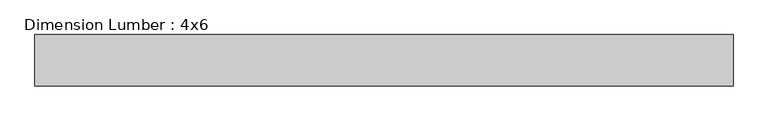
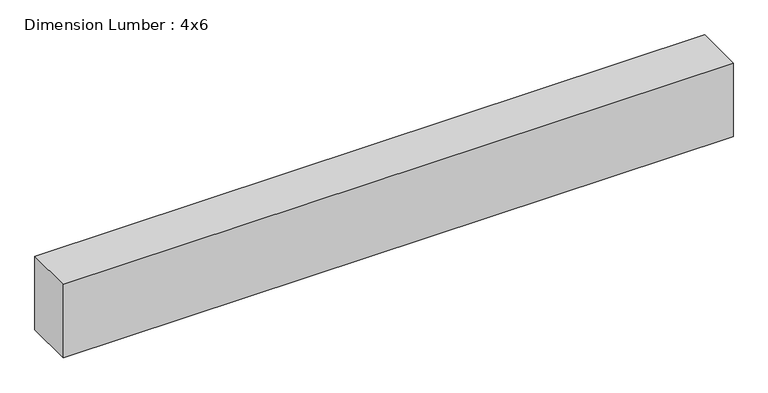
"""IFC4 building model written with IfcOpenShell, lengths in millimetres: beam geometry, Dimension Lumber : 4x6."""

import ifcopenshell
import ifcopenshell.guid

model = None  # the IFC model being written
_history = None  # IfcOwnerHistory: only IFC2X3 demands one
_inside = {}  # id of a spatial element -> (the spatial element, [elements in it])
_under = {}  # id of a project, library or spatial element -> (it, [spatial elements below it])
_declared = {}  # id of a project -> (the project, [libraries it declares])
_typed = {}  # id of a type object -> (the type object, [elements of that type])
_made_of = {}  # id of a material, layer set ... -> (it, [elements and type objects made of it])


def new_model(schema):
    """Start an empty IFC model of exactly this schema.

    Asked for "IFC4X3", IfcOpenShell would pick the latest addendum, in which some entities
    have other attributes; the version numbers below select the first issue.
    IFC2X3 requires an IfcOwnerHistory on every rooted entity: one is made here for all.
    """
    global model, _history
    if schema == "IFC4X3":
        model = ifcopenshell.file(schema_version=(4, 3, 0, 0))
    else:
        model = ifcopenshell.file(schema=schema)
    _inside.clear()
    _under.clear()
    _declared.clear()
    _typed.clear()
    _made_of.clear()
    _history = None
    if model.schema == "IFC2X3":
        org = make("IfcOrganization", Name="unknown")
        user = make(
            "IfcPersonAndOrganization",
            ThePerson=make("IfcPerson", FamilyName="unknown"),
            TheOrganization=org,
        )
        app = make(
            "IfcApplication",
            ApplicationDeveloper=org,
            Version="unknown",
            ApplicationFullName="unknown",
            ApplicationIdentifier="unknown",
        )
        _history = make(
            "IfcOwnerHistory",
            OwningUser=user,
            OwningApplication=app,
            ChangeAction="ADDED",
            CreationDate=0,
        )
    return model


def make(cls, **values):
    """One entity of the class cls with the attributes given. An attribute that is None is left unset."""
    return model.create_entity(
        cls, **{name: value for name, value in values.items() if value is not None}
    )


def rooted(cls, **values):
    """An entity with a GlobalId (a new one), such as an element, a storey or a relation."""
    return make(cls, GlobalId=ifcopenshell.guid.new(), OwnerHistory=_history, **values)


def si_unit(unit_type, name, prefix=None):
    """IfcSIUnit, for example si_unit("LENGTHUNIT", "METRE", prefix="MILLI")."""
    return make("IfcSIUnit", UnitType=unit_type, Prefix=prefix, Name=name)


def assignment(units):
    """IfcUnitAssignment: the units of a project."""
    return None if units is None else make("IfcUnitAssignment", Units=units)


def point(xyz):
    """IfcCartesianPoint."""
    return None if xyz is None else make("IfcCartesianPoint", Coordinates=xyz)


def direction(xyz):
    """IfcDirection."""
    return None if xyz is None else make("IfcDirection", DirectionRatios=xyz)


def frame(location, z_axis=None, x_axis=None):
    """IfcAxis2Placement3D, a coordinate frame: its origin and axes. An axis left out is left unset."""
    return make(
        "IfcAxis2Placement3D",
        Location=point(location),
        Axis=direction(z_axis),
        RefDirection=direction(x_axis),
    )


def origin():
    """The frame at (0, 0, 0) with its axes left unset."""
    return frame((0.0, 0.0, 0.0))


def place(relative_to, where):
    """IfcLocalPlacement: puts the frame where relative to a parent placement (None: the world)."""
    return make(
        "IfcLocalPlacement", PlacementRelTo=relative_to, RelativePlacement=where
    )


def context(
    kind, dimensions, precision=None, world=None, true_north=None, identifier=None
):
    """IfcGeometricRepresentationContext, for example the 3D "Model" context."""
    return make(
        "IfcGeometricRepresentationContext",
        ContextIdentifier=identifier,
        ContextType=kind,
        CoordinateSpaceDimension=dimensions,
        Precision=precision,
        WorldCoordinateSystem=world,
        TrueNorth=true_north,
    )


def project(units=None, contexts=None):
    """IfcProject with its units and contexts."""
    return rooted(
        "IfcProject",
        Name="project",
        RepresentationContexts=contexts,
        UnitsInContext=assignment(units),
    )


def spatial(cls, under=None, at=None, **own):
    """A site, building, storey or space (cls), placed at a placement, below another one or the project."""
    s = rooted(cls, ObjectPlacement=at, **own)
    if under is not None:
        _under.setdefault(under.id(), (under, []))[1].append(s)
    return s


def polyline(points):
    """IfcPolyline through the points."""
    return make("IfcPolyline", Points=[point(p) for p in points])


def outline(outer, holes=None, kind="AREA"):
    """IfcArbitraryClosedProfileDef: a profile drawn as a closed curve; with holes, ...WithVoids."""
    if holes is None:
        return make("IfcArbitraryClosedProfileDef", ProfileType=kind, OuterCurve=outer)
    return make(
        "IfcArbitraryProfileDefWithVoids",
        ProfileType=kind,
        OuterCurve=outer,
        InnerCurves=holes,
    )


def extrude(swept, where, along, depth):
    """IfcExtrudedAreaSolid: the profile swept, set in the frame where, extruded along a direction by depth."""
    return make(
        "IfcExtrudedAreaSolid",
        SweptArea=swept,
        Position=where,
        ExtrudedDirection=direction(along),
        Depth=depth,
    )


def shape(context_of_items, identifier, shape_type, items):
    """IfcShapeRepresentation: the items that make up one representation, for example the "Body"."""
    return make(
        "IfcShapeRepresentation",
        ContextOfItems=context_of_items,
        RepresentationIdentifier=identifier,
        RepresentationType=shape_type,
        Items=items,
    )


def source(mapping_origin, context_of_items, identifier, shape_type, items):
    """IfcRepresentationMap: a shape defined once, which mapped items show again and again."""
    return make(
        "IfcRepresentationMap",
        MappingOrigin=mapping_origin,
        MappedRepresentation=shape(context_of_items, identifier, shape_type, items),
    )


def transform(
    local_origin,
    x_axis=None,
    y_axis=None,
    z_axis=None,
    scale=None,
    scale2=None,
    scale3=None,
    uniform=True,
):
    """IfcCartesianTransformationOperator3D, or its non-uniform kind. x_axis, y_axis, z_axis: its Axis1, 2, 3."""
    if uniform:
        return make(
            "IfcCartesianTransformationOperator3D",
            Axis1=direction(x_axis),
            Axis2=direction(y_axis),
            LocalOrigin=point(local_origin),
            Scale=scale,
            Axis3=direction(z_axis),
        )
    return make(
        "IfcCartesianTransformationOperator3DnonUniform",
        Axis1=direction(x_axis),
        Axis2=direction(y_axis),
        LocalOrigin=point(local_origin),
        Scale=scale,
        Axis3=direction(z_axis),
        Scale2=scale2,
        Scale3=scale3,
    )


def mapped(mapping_source, mapping_target):
    """IfcMappedItem: shows the shape of a source again, moved by a transform."""
    return make(
        "IfcMappedItem", MappingSource=mapping_source, MappingTarget=mapping_target
    )


def made_of(thing, what):
    """Note that an element or type object is made of a material, layer set ...; save() writes the relation."""
    if what is not None:
        _made_of.setdefault(what.id(), (what, []))[1].append(thing)
    return thing


def element(
    cls,
    number,
    at=None,
    inside=None,
    cuts=None,
    type_object=None,
    material=None,
    context=None,
    identifier="Body",
    shape_type=None,
    held_by="IfcProductDefinitionShape",
    body=None,
    shapes=None,
    **own,
):
    """One element of the class cls, such as IfcWall. Its Tag is "e" and its number.

    at: its placement. inside: the storey or other place that contains it. cuts: it is an
    opening in that element (IfcRelVoidsElement). A single representation is given by context,
    identifier, shape_type and body (its items); several are given by shapes. held_by: the class
    of the entity that holds the representations. save() writes the other relations.
    """
    e = rooted(cls, Tag="e%d" % number, ObjectPlacement=at, **own)
    if body is not None:
        shapes = [shape(context, identifier, shape_type, body)]
    if shapes is not None:
        e.Representation = make(held_by, Representations=shapes)
    if inside is not None:
        _inside.setdefault(inside.id(), (inside, []))[1].append(e)
    if cuts is not None:
        rooted(
            "IfcRelVoidsElement", RelatingBuildingElement=cuts, RelatedOpeningElement=e
        )
    if type_object is not None:
        _typed.setdefault(type_object.id(), (type_object, []))[1].append(e)
    return made_of(e, material)


def aggregate(whole, parts):
    """IfcRelAggregates: a whole, such as a stair, and the parts it consists of."""
    return rooted("IfcRelAggregates", RelatingObject=whole, RelatedObjects=parts)


def save(model, path):
    """Write the relations noted so far, then the file.

    IfcRelAggregates (storeys below a building ...), IfcRelContainedInSpatialStructure (elements
    in a storey), IfcRelDefinesByType, IfcRelAssociatesMaterial and IfcRelDeclares: one each for
    every whole, place, type object, material and project.
    """
    for whole, parts in _under.values():
        aggregate(whole, parts)
    for where, things in _inside.values():
        rooted(
            "IfcRelContainedInSpatialStructure",
            RelatedElements=things,
            RelatingStructure=where,
        )
    for kind, things in _typed.values():
        rooted("IfcRelDefinesByType", RelatedObjects=things, RelatingType=kind)
    for what, things in _made_of.values():
        rooted("IfcRelAssociatesMaterial", RelatedObjects=things, RelatingMaterial=what)
    for by, libraries in _declared.values():
        rooted("IfcRelDeclares", RelatingContext=by, RelatedDefinitions=libraries)
    model.write(path)


def dimension_lumber_4x6_282d2acf(model_context):
    return source(origin(), model_context, "Body", "SweptSolid", [
        extrude(outline(polyline([(612.7749994, 44.45), (612.7749994, -44.45), (-593.725, -44.45), (-593.725, 44.45), (612.7749994, 44.45)])), frame((0.0, 0.0, -69.85), z_axis=(0.0, 0.0, 1.0), x_axis=(1.0, 0.0, 0.0)), (0.0, 0.0, 1.0), 139.7),
    ])


if __name__ == "__main__":
    model = new_model("IFC4")
    model_context = context("Model", 3, world=origin())
    ifc_project = project(units=[si_unit("LENGTHUNIT", "METRE", prefix="MILLI")], contexts=[model_context])
    site = spatial("IfcSite", under=ifc_project)
    building = spatial("IfcBuilding", under=site)
    placement = place(None, origin())
    dimension_lumber_4x6_shape = dimension_lumber_4x6_282d2acf(model_context)
    element("IfcBeam", 1, ObjectType="Dimension Lumber : 4x6", at=placement, inside=building, context=model_context, shape_type="MappedRepresentation", body=[
        mapped(dimension_lumber_4x6_shape, transform((0.0, 0.0, 0.0), x_axis=(1.0, 0.0, 0.0), y_axis=(0.0, 1.0, 0.0), z_axis=(0.0, 0.0, 1.0))),
    ])
    save(model, "model.ifc")
